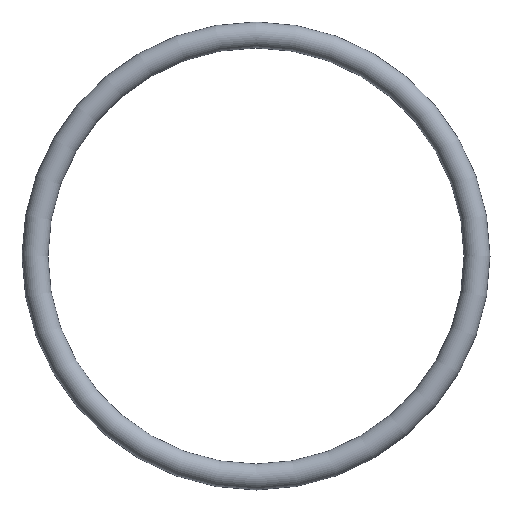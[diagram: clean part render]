
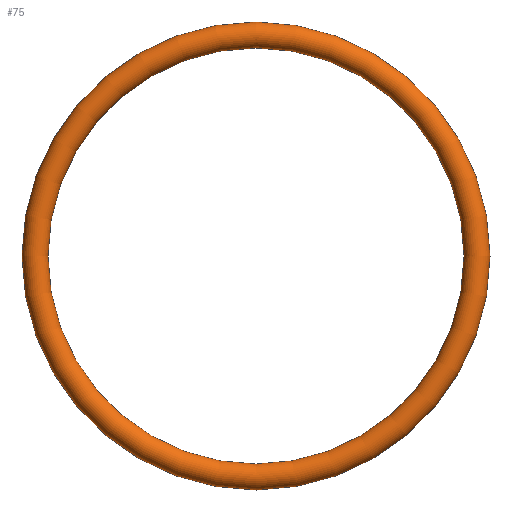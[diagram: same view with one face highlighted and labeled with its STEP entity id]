
A CAD part, front view. The second image highlights one B-rep face of the part: STEP entity #75.
In plain terms, the highlighted toroidal (fillet/blend) face has major radius 42.5 mm and minor radius 2.5 mm.
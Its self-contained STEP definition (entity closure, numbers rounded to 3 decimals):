
#75 = ADVANCED_FACE( '', ( #77 ), #78, .T. );
#77 = FACE_BOUND( '', #79, .T. );
#78 = TOROIDAL_SURFACE( '', #80, 42.5, 2.5 );
#79 = VERTEX_LOOP( '', #81 );
#80 = AXIS2_PLACEMENT_3D( '', #82, #83, #84 );
#81 = VERTEX_POINT( '', #85 );
#82 = CARTESIAN_POINT( '', ( 0., 0., 0. ) );
#83 = DIRECTION( '', ( 0., -1., 0. ) );
#84 = DIRECTION( '', ( 0., 0., -1. ) );
#85 = CARTESIAN_POINT( '', ( 0., 0., -45. ) );
